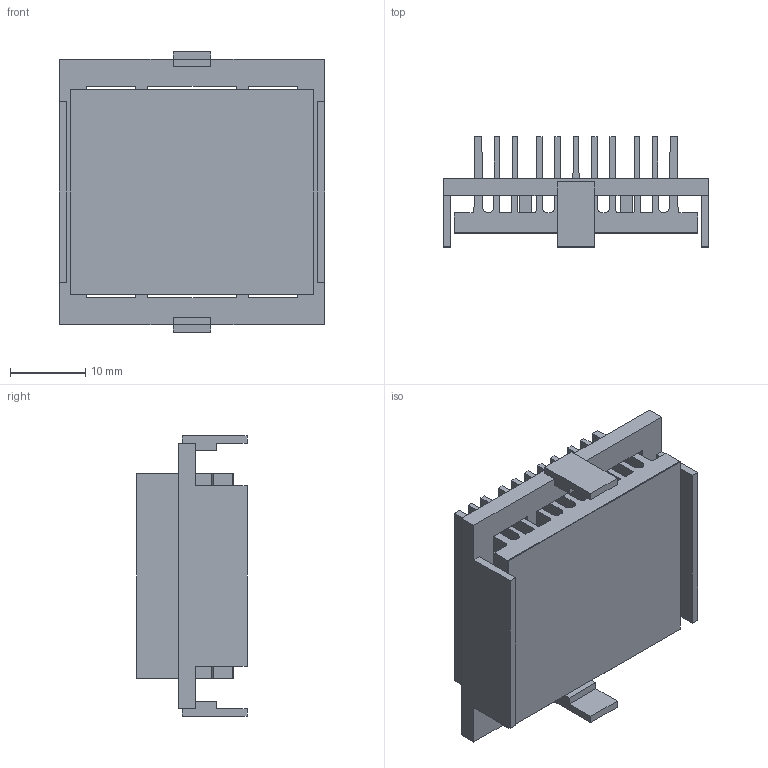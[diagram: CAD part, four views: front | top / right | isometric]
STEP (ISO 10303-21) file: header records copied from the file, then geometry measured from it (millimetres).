
FILE_DESCRIPTION (( 'STEP AP214' ), '1' );
FILE_NAME ('INH33001-12.7-2.6BU.STEP', '2023-02-17T18:06:39', ( '' ), ( '' ), 'SwSTEP 2.0', 'SolidWorks 2020', '' );
FILE_SCHEMA (( 'AUTOMOTIVE_DESIGN' ));
Length unit declared in the file: millimetre
Products named in the file (1): INH33001-12.7-2.6BU
Bounding box: 35.2 x 14.6 x 37.2 mm (x, y, z)
Volume: 6499.3 mm3; surface area: 12521.8 mm2
Topology: 3 solids, 3 shells, 130 faces, 372 edges, 248 vertices
Faces by surface type: plane 112, cylinder 18
Entity records: 5678 total; most frequent: CARTESIAN_POINT 751, ORIENTED_EDGE 744, DIRECTION 670, EDGE_CURVE 372, VECTOR 336, LINE 336, VERTEX_POINT 248, AXIS2_PLACEMENT_3D 167
